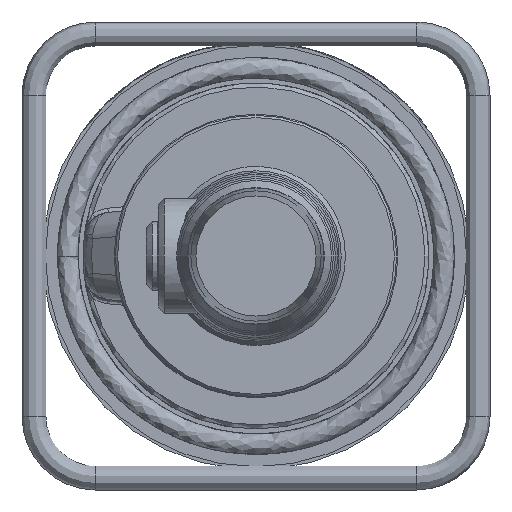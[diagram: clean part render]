
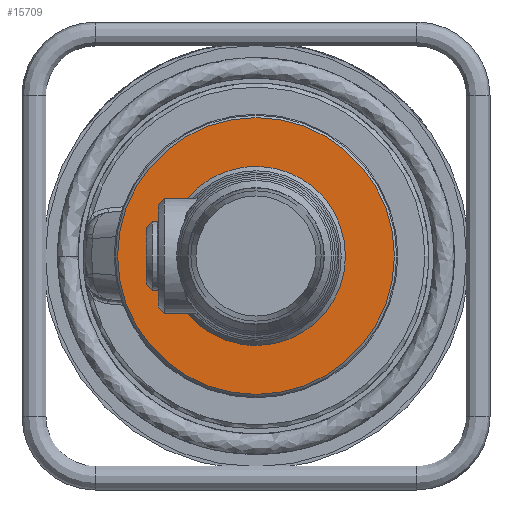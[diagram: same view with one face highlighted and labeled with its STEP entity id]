
A CAD part, left-side view. The second image highlights one B-rep face of the part: STEP entity #15709.
In plain terms, the highlighted planar face has unit normal (-1, 0, 0).
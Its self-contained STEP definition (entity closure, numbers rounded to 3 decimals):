
#909=LINE('',#38031,#1767);
#1767=VECTOR('',#19068,1.668);
#2560=B_SPLINE_CURVE_WITH_KNOTS('',3,(#38033,#38034,#38035,#38036,#38037,
#38038,#38039,#38040,#38041,#38042,#38043,#38044,#38045,#38046,#38047,#38048,
#38049,#38050,#38051,#38052,#38053,#38054,#38055,#38056,#38057,#38058),
 .UNSPECIFIED.,.F.,.F.,(4,2,2,2,2,2,2,2,2,2,2,2,4),(-9.637,-9.63,
-9.622,-9.603,-9.551,-9.384,
-8.87,-7.81,-6.371,-4.874,
-3.299,-1.673,0.),.UNSPECIFIED.);
#3304=PLANE('',#16558);
#3525=FACE_BOUND('',#5401,.T.);
#4361=FACE_OUTER_BOUND('',#5400,.T.);
#5400=EDGE_LOOP('',(#13840));
#5401=EDGE_LOOP('',(#13841,#13842,#13843));
#6037=CIRCLE('',#16559,68.);
#6038=CIRCLE('',#16560,40.75);
#7562=VERTEX_POINT('',#38027);
#7563=VERTEX_POINT('',#38029);
#7564=VERTEX_POINT('',#38030);
#7565=VERTEX_POINT('',#38032);
#9701=EDGE_CURVE('',#7562,#7562,#6037,.T.);
#9702=EDGE_CURVE('',#7563,#7564,#909,.T.);
#9703=EDGE_CURVE('',#7565,#7563,#2560,.T.);
#9704=EDGE_CURVE('',#7565,#7564,#6038,.T.);
#13840=ORIENTED_EDGE('',*,*,#9701,.F.);
#13841=ORIENTED_EDGE('',*,*,#9702,.F.);
#13842=ORIENTED_EDGE('',*,*,#9703,.F.);
#13843=ORIENTED_EDGE('',*,*,#9704,.T.);
#15709=ADVANCED_FACE('',(#4361,#3525),#3304,.T.);
#16558=AXIS2_PLACEMENT_3D('',#38026,#19064,#19065);
#16559=AXIS2_PLACEMENT_3D('',#38028,#19066,#19067);
#16560=AXIS2_PLACEMENT_3D('',#38059,#19069,#19070);
#19064=DIRECTION('center_axis',(-1.,0.,0.));
#19065=DIRECTION('ref_axis',(0.,-1.,0.));
#19066=DIRECTION('center_axis',(1.,0.,0.));
#19067=DIRECTION('ref_axis',(0.,0.,
-1.));
#19068=DIRECTION('',(0.,0.951,-0.309));
#19069=DIRECTION('center_axis',(1.,0.,0.));
#19070=DIRECTION('ref_axis',(0.,0.,
-1.));
#38026=CARTESIAN_POINT('Origin',(-128.,0.,-55.5));
#38027=CARTESIAN_POINT('',(-128.,0.,-68.));
#38028=CARTESIAN_POINT('Origin',(-128.,0.,0.));
#38029=CARTESIAN_POINT('',(-128.,-40.342,13.108));
#38030=CARTESIAN_POINT('',(-128.,-38.756,12.592));
#38031=CARTESIAN_POINT('',(-128.,-11.266,3.661));
#38032=CARTESIAN_POINT('',(-128.,6.525,-40.224));
#38033=CARTESIAN_POINT('Ctrl Pts',(-128.,6.525,-40.224));
#38034=CARTESIAN_POINT('Ctrl Pts',(-128.,6.526,-40.229));
#38035=CARTESIAN_POINT('Ctrl Pts',(-128.,6.526,-40.234));
#38036=CARTESIAN_POINT('Ctrl Pts',(-128.,6.524,-40.245));
#38037=CARTESIAN_POINT('Ctrl Pts',(-128.,6.523,-40.25));
#38038=CARTESIAN_POINT('Ctrl Pts',(-128.,6.515,-40.268));
#38039=CARTESIAN_POINT('Ctrl Pts',(-128.,6.507,-40.279));
#38040=CARTESIAN_POINT('Ctrl Pts',(-128.,6.472,-40.317));
#38041=CARTESIAN_POINT('Ctrl Pts',(-128.,6.433,-40.344));
#38042=CARTESIAN_POINT('Ctrl Pts',(-128.,6.276,-40.437));
#38043=CARTESIAN_POINT('Ctrl Pts',(-128.,6.099,-40.505));
#38044=CARTESIAN_POINT('Ctrl Pts',(-128.,5.564,-40.695));
#38045=CARTESIAN_POINT('Ctrl Pts',(-128.,4.963,-40.856));
#38046=CARTESIAN_POINT('Ctrl Pts',(-128.,2.674,-41.317));
#38047=CARTESIAN_POINT('Ctrl Pts',(-128.,0.244,-41.635));
#38048=CARTESIAN_POINT('Ctrl Pts',(-128.,-6.94,-41.468));
#38049=CARTESIAN_POINT('Ctrl Pts',(-128.,-11.399,-40.675));
#38050=CARTESIAN_POINT('Ctrl Pts',(-128.,-20.537,
-37.191));
#38051=CARTESIAN_POINT('Ctrl Pts',(-128.,-24.833,
-34.57));
#38052=CARTESIAN_POINT('Ctrl Pts',(-128.,-32.474,
-27.759));
#38053=CARTESIAN_POINT('Ctrl Pts',(-128.,-35.695,
-23.552));
#38054=CARTESIAN_POINT('Ctrl Pts',(-128.,-40.483,
-14.015));
#38055=CARTESIAN_POINT('Ctrl Pts',(-128.,-41.949,
-8.738));
#38056=CARTESIAN_POINT('Ctrl Pts',(-128.,-42.796,
2.228));
#38057=CARTESIAN_POINT('Ctrl Pts',(-128.,-42.109,7.82));
#38058=CARTESIAN_POINT('Ctrl Pts',(-128.,-40.342,13.108));
#38059=CARTESIAN_POINT('Origin',(-128.,0.,
0.));
